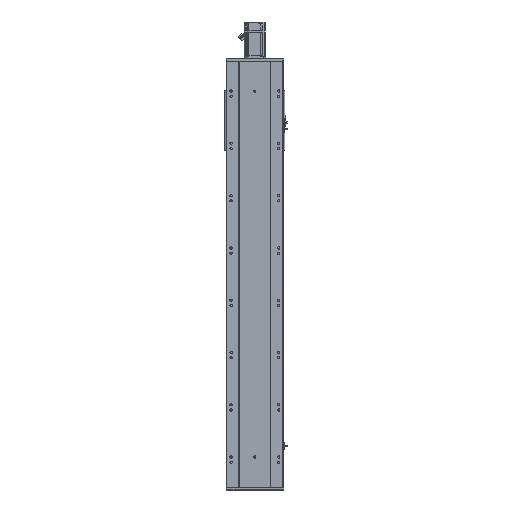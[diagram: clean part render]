
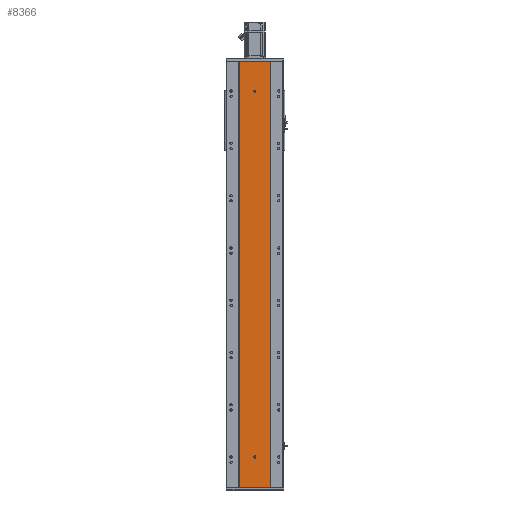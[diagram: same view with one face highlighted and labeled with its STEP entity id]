
A CAD part, front view. The second image highlights one B-rep face of the part: STEP entity #8366.
In plain terms, the highlighted planar face has unit normal (0, -1, 0).
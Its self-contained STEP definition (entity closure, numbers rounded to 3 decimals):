
#150 = EDGE_LOOP ( 'NONE', ( #61191, #29268, #47429, #63360, #42699 ) ) ;
#1539 = EDGE_CURVE ( 'NONE', #49013, #51018, #69570, .T. ) ;
#1780 = DIRECTION ( 'NONE',  ( 0., 0., -1. ) ) ;
#2353 = DIRECTION ( 'NONE',  ( 0., -1., 0. ) ) ;
#2618 = CARTESIAN_POINT ( 'NONE',  ( -4., 0., 119.5 ) ) ;
#4525 = CARTESIAN_POINT ( 'NONE',  ( -60., 0., 1632. ) ) ;
#4872 = LINE ( 'NONE', #8006, #47252 ) ;
#4971 = VERTEX_POINT ( 'NONE', #59860 ) ;
#5532 = VERTEX_POINT ( 'NONE', #30090 ) ;
#6426 = VECTOR ( 'NONE', #1780, 1000. ) ;
#6677 = AXIS2_PLACEMENT_3D ( 'NONE', #43394, #48928, #9118 ) ;
#6902 = CARTESIAN_POINT ( 'NONE',  ( -60., 0., 1632. ) ) ;
#7586 = FACE_OUTER_BOUND ( 'NONE', #68260, .T. ) ;
#8006 = CARTESIAN_POINT ( 'NONE',  ( -60., 0., 1632. ) ) ;
#8366 = ADVANCED_FACE ( 'NONE', ( #60796, #65295, #7586 ), #41679, .F. ) ;
#8424 = EDGE_CURVE ( 'NONE', #5532, #4971, #10226, .T. ) ;
#9118 = DIRECTION ( 'NONE',  ( 0., 0., -1. ) ) ;
#10025 = VECTOR ( 'NONE', #68204, 1000. ) ;
#10226 = CIRCLE ( 'NONE', #6677, 4. ) ;
#10667 = ORIENTED_EDGE ( 'NONE', *, *, #42798, .F. ) ;
#11006 = CARTESIAN_POINT ( 'NONE',  ( 0., 0., 1514. ) ) ;
#11069 = AXIS2_PLACEMENT_3D ( 'NONE', #37616, #32343, #14672 ) ;
#11195 = EDGE_CURVE ( 'NONE', #58460, #5532, #20744, .T. ) ;
#12050 = CARTESIAN_POINT ( 'NONE',  ( -4., 0., 116.5 ) ) ;
#13348 = DIRECTION ( 'NONE',  ( 0., -1., 0. ) ) ;
#14672 = DIRECTION ( 'NONE',  ( 0., 0., -1. ) ) ;
#16367 = CARTESIAN_POINT ( 'NONE',  ( -60., 0., 1632. ) ) ;
#16404 = EDGE_CURVE ( 'NONE', #55326, #58836, #24471, .T. ) ;
#16800 = EDGE_CURVE ( 'NONE', #30917, #53451, #18935, .T. ) ;
#17179 = LINE ( 'NONE', #68849, #6426 ) ;
#18168 = DIRECTION ( 'NONE',  ( 0., 0., -1. ) ) ;
#18432 = CARTESIAN_POINT ( 'NONE',  ( 0., 0., 1522. ) ) ;
#18935 = CIRCLE ( 'NONE', #67637, 4. ) ;
#19014 = VECTOR ( 'NONE', #27026, 1000. ) ;
#19485 = DIRECTION ( 'NONE',  ( 0., 1., 0. ) ) ;
#20441 = EDGE_CURVE ( 'NONE', #55326, #49013, #4872, .T. ) ;
#20744 = LINE ( 'NONE', #12050, #44131 ) ;
#23119 = AXIS2_PLACEMENT_3D ( 'NONE', #6902, #19485, #64626 ) ;
#23804 = CARTESIAN_POINT ( 'NONE',  ( 60., 0., 1632. ) ) ;
#24471 = LINE ( 'NONE', #4525, #19014 ) ;
#25125 = CARTESIAN_POINT ( 'NONE',  ( 0., 0., 119.5 ) ) ;
#25624 = AXIS2_PLACEMENT_3D ( 'NONE', #47851, #13348, #18168 ) ;
#27026 = DIRECTION ( 'NONE',  ( 1., 0., 0. ) ) ;
#29268 = ORIENTED_EDGE ( 'NONE', *, *, #52569, .F. ) ;
#30090 = CARTESIAN_POINT ( 'NONE',  ( -4., 0., 116.5 ) ) ;
#30330 = VECTOR ( 'NONE', #49027, 1000. ) ;
#30714 = DIRECTION ( 'NONE',  ( 0., 0., -1. ) ) ;
#30909 = DIRECTION ( 'NONE',  ( 0., 0., -1. ) ) ;
#30917 = VERTEX_POINT ( 'NONE', #11006 ) ;
#32343 = DIRECTION ( 'NONE',  ( 0., -1., 0. ) ) ;
#34698 = CIRCLE ( 'NONE', #11069, 4. ) ;
#35254 = DIRECTION ( 'NONE',  ( 0., 0., -1. ) ) ;
#36591 = LINE ( 'NONE', #60886, #30330 ) ;
#37616 = CARTESIAN_POINT ( 'NONE',  ( 0., 0., 1518. ) ) ;
#38951 = CARTESIAN_POINT ( 'NONE',  ( -60., 0., 0. ) ) ;
#39379 = EDGE_CURVE ( 'NONE', #65678, #58460, #43306, .T. ) ;
#41220 = CARTESIAN_POINT ( 'NONE',  ( 4., 0., 116.5 ) ) ;
#41679 = PLANE ( 'NONE',  #23119 ) ;
#41998 = EDGE_CURVE ( 'NONE', #61930, #65678, #36591, .T. ) ;
#42699 = ORIENTED_EDGE ( 'NONE', *, *, #39379, .F. ) ;
#42798 = EDGE_CURVE ( 'NONE', #53451, #30917, #34698, .T. ) ;
#43306 = CIRCLE ( 'NONE', #65349, 4. ) ;
#43394 = CARTESIAN_POINT ( 'NONE',  ( 0., 0., 116.5 ) ) ;
#44131 = VECTOR ( 'NONE', #35254, 1000. ) ;
#44683 = DIRECTION ( 'NONE',  ( 0., 0., -1. ) ) ;
#47252 = VECTOR ( 'NONE', #30714, 1000. ) ;
#47429 = ORIENTED_EDGE ( 'NONE', *, *, #8424, .F. ) ;
#47851 = CARTESIAN_POINT ( 'NONE',  ( 0., 0., 116.5 ) ) ;
#48311 = CIRCLE ( 'NONE', #25624, 4. ) ;
#48928 = DIRECTION ( 'NONE',  ( 0., -1., 0. ) ) ;
#49013 = VERTEX_POINT ( 'NONE', #60362 ) ;
#49027 = DIRECTION ( 'NONE',  ( 0., 0., 1. ) ) ;
#51018 = VERTEX_POINT ( 'NONE', #51666 ) ;
#51666 = CARTESIAN_POINT ( 'NONE',  ( 60., 0., 0. ) ) ;
#52569 = EDGE_CURVE ( 'NONE', #4971, #61930, #48311, .T. ) ;
#53451 = VERTEX_POINT ( 'NONE', #18432 ) ;
#55025 = ORIENTED_EDGE ( 'NONE', *, *, #1539, .T. ) ;
#55326 = VERTEX_POINT ( 'NONE', #16367 ) ;
#56538 = DIRECTION ( 'NONE',  ( 0., -1., 0. ) ) ;
#57918 = ORIENTED_EDGE ( 'NONE', *, *, #16404, .F. ) ;
#58460 = VERTEX_POINT ( 'NONE', #2618 ) ;
#58836 = VERTEX_POINT ( 'NONE', #23804 ) ;
#59461 = EDGE_LOOP ( 'NONE', ( #73479, #10667 ) ) ;
#59860 = CARTESIAN_POINT ( 'NONE',  ( 0., 0., 112.5 ) ) ;
#60220 = CARTESIAN_POINT ( 'NONE',  ( 4., 0., 119.5 ) ) ;
#60362 = CARTESIAN_POINT ( 'NONE',  ( -60., 0., 0. ) ) ;
#60796 = FACE_BOUND ( 'NONE', #59461, .T. ) ;
#60886 = CARTESIAN_POINT ( 'NONE',  ( 4., 0., 116.5 ) ) ;
#61130 = ORIENTED_EDGE ( 'NONE', *, *, #20441, .T. ) ;
#61191 = ORIENTED_EDGE ( 'NONE', *, *, #41998, .F. ) ;
#61930 = VERTEX_POINT ( 'NONE', #41220 ) ;
#63360 = ORIENTED_EDGE ( 'NONE', *, *, #11195, .F. ) ;
#64626 = DIRECTION ( 'NONE',  ( 0., 0., 1. ) ) ;
#65295 = FACE_BOUND ( 'NONE', #150, .T. ) ;
#65349 = AXIS2_PLACEMENT_3D ( 'NONE', #25125, #2353, #30909 ) ;
#65678 = VERTEX_POINT ( 'NONE', #60220 ) ;
#67637 = AXIS2_PLACEMENT_3D ( 'NONE', #73200, #56538, #44683 ) ;
#67929 = EDGE_CURVE ( 'NONE', #58836, #51018, #17179, .T. ) ;
#68204 = DIRECTION ( 'NONE',  ( 1., 0., 0. ) ) ;
#68260 = EDGE_LOOP ( 'NONE', ( #55025, #68938, #57918, #61130 ) ) ;
#68849 = CARTESIAN_POINT ( 'NONE',  ( 60., 0., 1632. ) ) ;
#68938 = ORIENTED_EDGE ( 'NONE', *, *, #67929, .F. ) ;
#69570 = LINE ( 'NONE', #38951, #10025 ) ;
#73200 = CARTESIAN_POINT ( 'NONE',  ( 0., 0., 1518. ) ) ;
#73479 = ORIENTED_EDGE ( 'NONE', *, *, #16800, .F. ) ;
